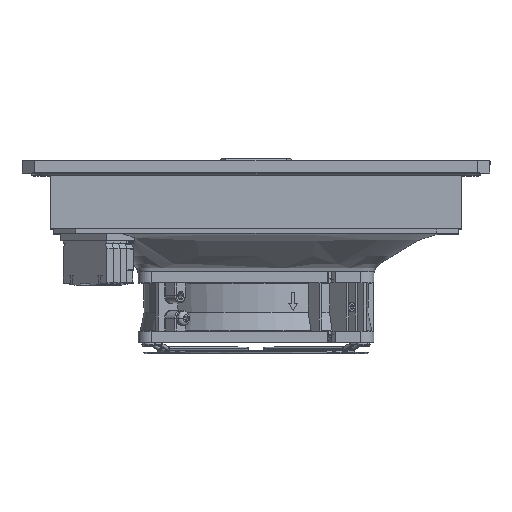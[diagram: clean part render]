
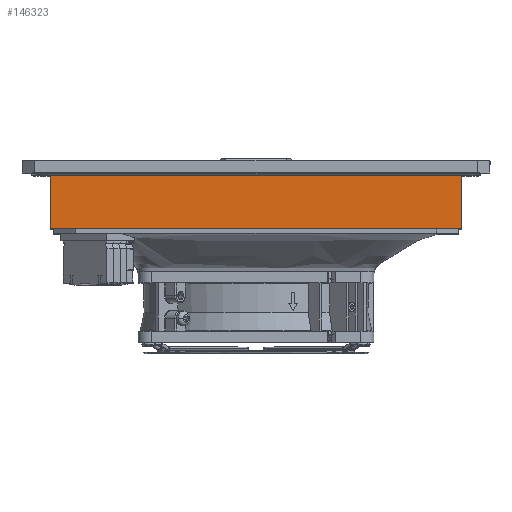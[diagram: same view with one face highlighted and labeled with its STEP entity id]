
A CAD part, top view. The second image highlights one B-rep face of the part: STEP entity #146323.
In plain terms, the highlighted planar face has unit normal (0, 0, 1).
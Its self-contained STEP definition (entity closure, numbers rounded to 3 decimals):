
#8694 = PLANE ( 'NONE',  #8768 ) ;
#8695 = FACE_OUTER_BOUND ( 'NONE', #146379, .T. ) ;
#8697 = DIRECTION ( 'NONE',  ( 0., -1., 0. ) ) ;
#8698 = VECTOR ( 'NONE', #8697, 1000. ) ;
#8699 = CARTESIAN_POINT ( 'NONE',  ( -110.5, 385.139, 110.5 ) ) ;
#8700 = LINE ( 'NONE', #8699, #8698 ) ;
#8765 = DIRECTION ( 'NONE',  ( 1., 0., 0. ) ) ;
#8766 = DIRECTION ( 'NONE',  ( 0., 0., 1. ) ) ;
#8767 = CARTESIAN_POINT ( 'NONE',  ( -110.5, 385.139, 110.5 ) ) ;
#8768 = AXIS2_PLACEMENT_3D ( 'NONE', #8767, #8766, #8765 ) ;
#8798 = CARTESIAN_POINT ( 'NONE',  ( -110.5, 0., 110.5 ) ) ;
#9193 = DIRECTION ( 'NONE',  ( 0., -1., 0. ) ) ;
#9194 = VECTOR ( 'NONE', #9193, 1000. ) ;
#9195 = CARTESIAN_POINT ( 'NONE',  ( 110.5, 385.139, 110.5 ) ) ;
#9196 = LINE ( 'NONE', #9195, #9194 ) ;
#9201 = CARTESIAN_POINT ( 'NONE',  ( 110.5, 0., 110.5 ) ) ;
#9398 = DIRECTION ( 'NONE',  ( -1., 0., 0. ) ) ;
#9400 = VECTOR ( 'NONE', #9398, 1000. ) ;
#9402 = CARTESIAN_POINT ( 'NONE',  ( -110.5, 0., 110.5 ) ) ;
#9403 = LINE ( 'NONE', #9402, #9400 ) ;
#72029 = VERTEX_POINT ( 'NONE', #148235 ) ;
#72031 = EDGE_CURVE ( 'NONE', #72029, #72032, #148234, .T. ) ;
#72032 = VERTEX_POINT ( 'NONE', #148230 ) ;
#146167 = ORIENTED_EDGE ( 'NONE', *, *, #147705, .F. ) ;
#146297 = ORIENTED_EDGE ( 'NONE', *, *, #146319, .T. ) ;
#146319 = EDGE_CURVE ( 'NONE', #72029, #146393, #8700, .T. ) ;
#146323 = ADVANCED_FACE ( 'NONE', ( #8695 ), #8694, .T. ) ;
#146379 = EDGE_LOOP ( 'NONE', ( #146297, #146167, #147565, #147606 ) ) ;
#146393 = VERTEX_POINT ( 'NONE', #8798 ) ;
#147167 = VERTEX_POINT ( 'NONE', #9201 ) ;
#147210 = EDGE_CURVE ( 'NONE', #72032, #147167, #9196, .T. ) ;
#147565 = ORIENTED_EDGE ( 'NONE', *, *, #147210, .F. ) ;
#147606 = ORIENTED_EDGE ( 'NONE', *, *, #72031, .F. ) ;
#147705 = EDGE_CURVE ( 'NONE', #147167, #146393, #9403, .T. ) ;
#148230 = CARTESIAN_POINT ( 'NONE',  ( 110.5, 30.5, 110.5 ) ) ;
#148231 = DIRECTION ( 'NONE',  ( 1., 0., 0. ) ) ;
#148232 = VECTOR ( 'NONE', #148231, 1000. ) ;
#148233 = CARTESIAN_POINT ( 'NONE',  ( -110.5, 30.5, 110.5 ) ) ;
#148234 = LINE ( 'NONE', #148233, #148232 ) ;
#148235 = CARTESIAN_POINT ( 'NONE',  ( -110.5, 30.5, 110.5 ) ) ;
